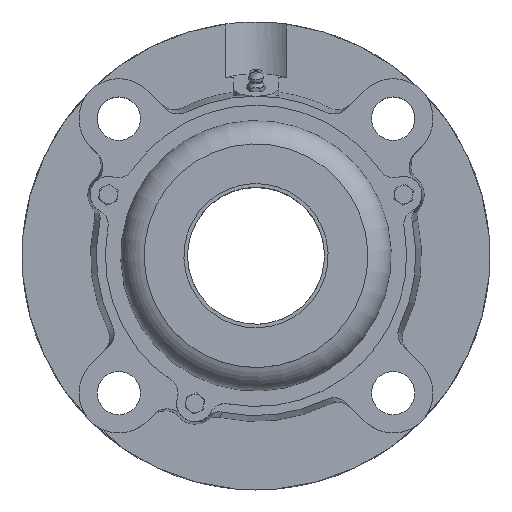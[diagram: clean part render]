
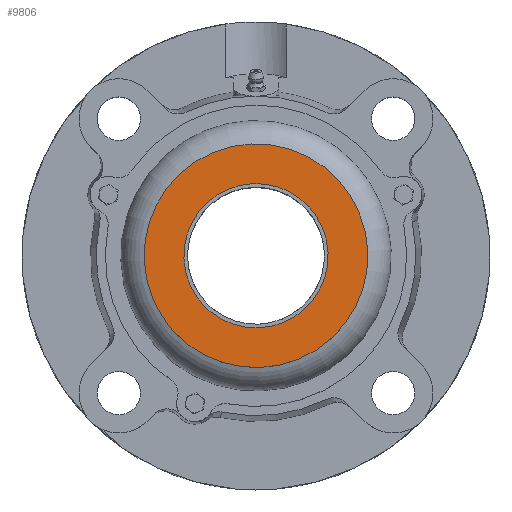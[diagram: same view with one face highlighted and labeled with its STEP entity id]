
A CAD part, top view. The second image highlights one B-rep face of the part: STEP entity #9806.
In plain terms, the highlighted planar face has unit normal (0, 0, 1).
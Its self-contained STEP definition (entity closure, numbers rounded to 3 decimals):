
#9071=CARTESIAN_POINT('',(31.6,0.,38.5));
#9072=VERTEX_POINT('',#9071);
#9073=CARTESIAN_POINT('',(0.0,0.0,38.5));
#9074=DIRECTION('',(0.0,0.0,-1.0));
#9075=DIRECTION('',(-1.0,0.0,0.0));
#9076=AXIS2_PLACEMENT_3D('',#9073,#9074,#9075);
#9077=CIRCLE('',#9076,31.6);
#9078=EDGE_CURVE('',#9072,#9072,#9077,.T.);
#9780=CARTESIAN_POINT('',(0.0,49.0,38.5));
#9781=VERTEX_POINT('',#9780);
#9782=CARTESIAN_POINT('',(0.0,0.,38.5));
#9783=DIRECTION('',(0.0,0.0,1.0));
#9784=DIRECTION('',(0.0,1.0,0.0));
#9785=AXIS2_PLACEMENT_3D('',#9782,#9783,#9784);
#9786=CIRCLE('',#9785,49.);
#9787=EDGE_CURVE('',#9781,#9781,#9786,.T.);
#9795=CARTESIAN_POINT('',(0.,70.565,38.5));
#9796=DIRECTION('',(0.0,0.0,1.0));
#9797=DIRECTION('',(1.0,0.0,0.0));
#9798=AXIS2_PLACEMENT_3D('',#9795,#9796,#9797);
#9799=PLANE('',#9798);
#9800=ORIENTED_EDGE('',*,*,#9787,.T.);
#9801=EDGE_LOOP('',(#9800));
#9802=FACE_OUTER_BOUND('',#9801,.T.);
#9803=ORIENTED_EDGE('',*,*,#9078,.T.);
#9804=EDGE_LOOP('',(#9803));
#9805=FACE_BOUND('',#9804,.T.);
#9806=ADVANCED_FACE('',(#9802,#9805),#9799,.T.);
